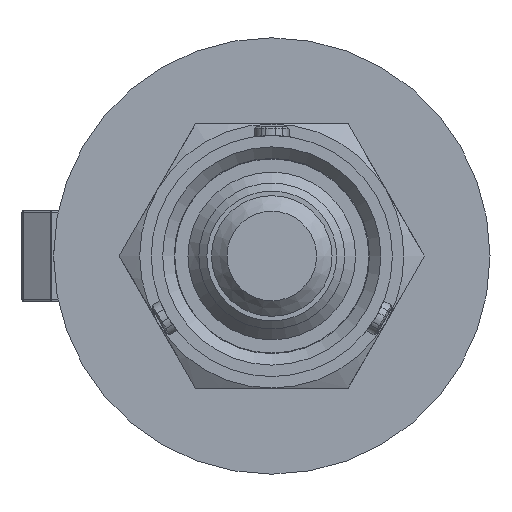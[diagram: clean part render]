
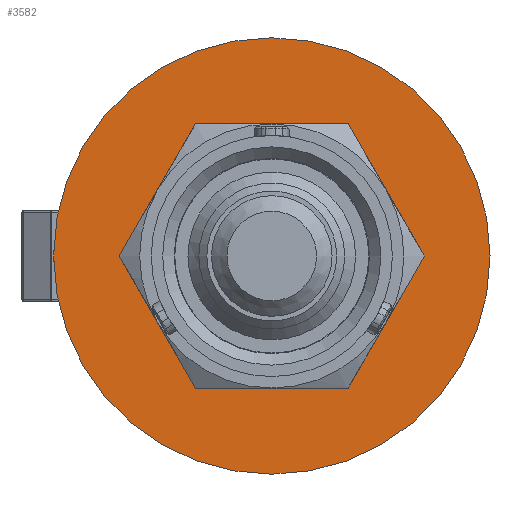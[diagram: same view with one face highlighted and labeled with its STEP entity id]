
A CAD part, front view. The second image highlights one B-rep face of the part: STEP entity #3582.
In plain terms, the highlighted planar face has unit normal (0, -1, 0).
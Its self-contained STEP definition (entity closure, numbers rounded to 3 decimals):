
#53 = CARTESIAN_POINT ( 'NONE',  ( -6.64, 188.25, -11.5 ) ) ;
#78 = FACE_OUTER_BOUND ( 'NONE', #620, .T. ) ;
#80 = EDGE_CURVE ( 'NONE', #1179, #943, #4964, .T. ) ;
#153 = EDGE_CURVE ( 'NONE', #4207, #2921, #840, .T. ) ;
#230 = DIRECTION ( 'NONE',  ( -0.5, 0., -0.866 ) ) ;
#240 = VERTEX_POINT ( 'NONE', #1951 ) ;
#288 = DIRECTION ( 'NONE',  ( -1., 0., 0. ) ) ;
#320 = ORIENTED_EDGE ( 'NONE', *, *, #1883, .F. ) ;
#331 = VECTOR ( 'NONE', #878, 1000. ) ;
#415 = VECTOR ( 'NONE', #1636, 1000. ) ;
#502 = EDGE_CURVE ( 'NONE', #2921, #3502, #2956, .T. ) ;
#570 = CARTESIAN_POINT ( 'NONE',  ( -6.64, 188.25, 11.5 ) ) ;
#620 = EDGE_LOOP ( 'NONE', ( #3492 ) ) ;
#637 = LINE ( 'NONE', #2270, #3658 ) ;
#728 = ORIENTED_EDGE ( 'NONE', *, *, #847, .F. ) ;
#840 = LINE ( 'NONE', #53, #2387 ) ;
#847 = EDGE_CURVE ( 'NONE', #3502, #1179, #1319, .T. ) ;
#878 = DIRECTION ( 'NONE',  ( -0.5, 0., 0.866 ) ) ;
#912 = DIRECTION ( 'NONE',  ( 0.5, 0., 0.866 ) ) ;
#943 = VERTEX_POINT ( 'NONE', #570 ) ;
#1179 = VERTEX_POINT ( 'NONE', #2045 ) ;
#1238 = ORIENTED_EDGE ( 'NONE', *, *, #153, .F. ) ;
#1257 = CARTESIAN_POINT ( 'NONE',  ( 6.64, 188.25, 11.5 ) ) ;
#1319 = LINE ( 'NONE', #3025, #331 ) ;
#1365 = DIRECTION ( 'NONE',  ( 0., -1., 0. ) ) ;
#1539 = ORIENTED_EDGE ( 'NONE', *, *, #3104, .F. ) ;
#1543 = CARTESIAN_POINT ( 'NONE',  ( 0., 188.25, 0. ) ) ;
#1636 = DIRECTION ( 'NONE',  ( -1., 0., 0. ) ) ;
#1691 = DIRECTION ( 'NONE',  ( 1., 0., 0. ) ) ;
#1716 = PLANE ( 'NONE',  #3182 ) ;
#1858 = CARTESIAN_POINT ( 'NONE',  ( -13.279, 188.25, 0. ) ) ;
#1883 = EDGE_CURVE ( 'NONE', #943, #240, #637, .T. ) ;
#1914 = EDGE_CURVE ( 'NONE', #4559, #4559, #2023, .T. ) ;
#1951 = CARTESIAN_POINT ( 'NONE',  ( -13.279, 188.25, 0. ) ) ;
#2023 = CIRCLE ( 'NONE', #3912, 19. ) ;
#2045 = CARTESIAN_POINT ( 'NONE',  ( 6.64, 188.25, 11.5 ) ) ;
#2067 = CARTESIAN_POINT ( 'NONE',  ( 13.279, 188.25, 0. ) ) ;
#2120 = FACE_BOUND ( 'NONE', #3784, .T. ) ;
#2234 = LINE ( 'NONE', #1858, #5228 ) ;
#2270 = CARTESIAN_POINT ( 'NONE',  ( -6.64, 188.25, 11.5 ) ) ;
#2387 = VECTOR ( 'NONE', #1691, 1000. ) ;
#2921 = VERTEX_POINT ( 'NONE', #3829 ) ;
#2956 = LINE ( 'NONE', #4580, #3585 ) ;
#2988 = DIRECTION ( 'NONE',  ( 1., 0., 0. ) ) ;
#3025 = CARTESIAN_POINT ( 'NONE',  ( 13.279, 188.25, 0. ) ) ;
#3093 = ORIENTED_EDGE ( 'NONE', *, *, #80, .F. ) ;
#3104 = EDGE_CURVE ( 'NONE', #240, #4207, #2234, .T. ) ;
#3182 = AXIS2_PLACEMENT_3D ( 'NONE', #3360, #1365, #2988 ) ;
#3360 = CARTESIAN_POINT ( 'NONE',  ( 0., 188.25, 0. ) ) ;
#3492 = ORIENTED_EDGE ( 'NONE', *, *, #1914, .F. ) ;
#3502 = VERTEX_POINT ( 'NONE', #2067 ) ;
#3582 = ADVANCED_FACE ( 'NONE', ( #2120, #78 ), #1716, .T. ) ;
#3585 = VECTOR ( 'NONE', #912, 1000. ) ;
#3658 = VECTOR ( 'NONE', #230, 1000. ) ;
#3784 = EDGE_LOOP ( 'NONE', ( #728, #5281, #1238, #1539, #320, #3093 ) ) ;
#3829 = CARTESIAN_POINT ( 'NONE',  ( 6.64, 188.25, -11.5 ) ) ;
#3912 = AXIS2_PLACEMENT_3D ( 'NONE', #1543, #4423, #288 ) ;
#4022 = CARTESIAN_POINT ( 'NONE',  ( -6.64, 188.25, -11.5 ) ) ;
#4203 = CARTESIAN_POINT ( 'NONE',  ( -19., 188.25, 0. ) ) ;
#4207 = VERTEX_POINT ( 'NONE', #4022 ) ;
#4423 = DIRECTION ( 'NONE',  ( 0., 1., 0. ) ) ;
#4559 = VERTEX_POINT ( 'NONE', #4203 ) ;
#4580 = CARTESIAN_POINT ( 'NONE',  ( 6.64, 188.25, -11.5 ) ) ;
#4964 = LINE ( 'NONE', #1257, #415 ) ;
#5130 = DIRECTION ( 'NONE',  ( 0.5, 0., -0.866 ) ) ;
#5228 = VECTOR ( 'NONE', #5130, 1000. ) ;
#5281 = ORIENTED_EDGE ( 'NONE', *, *, #502, .F. ) ;
